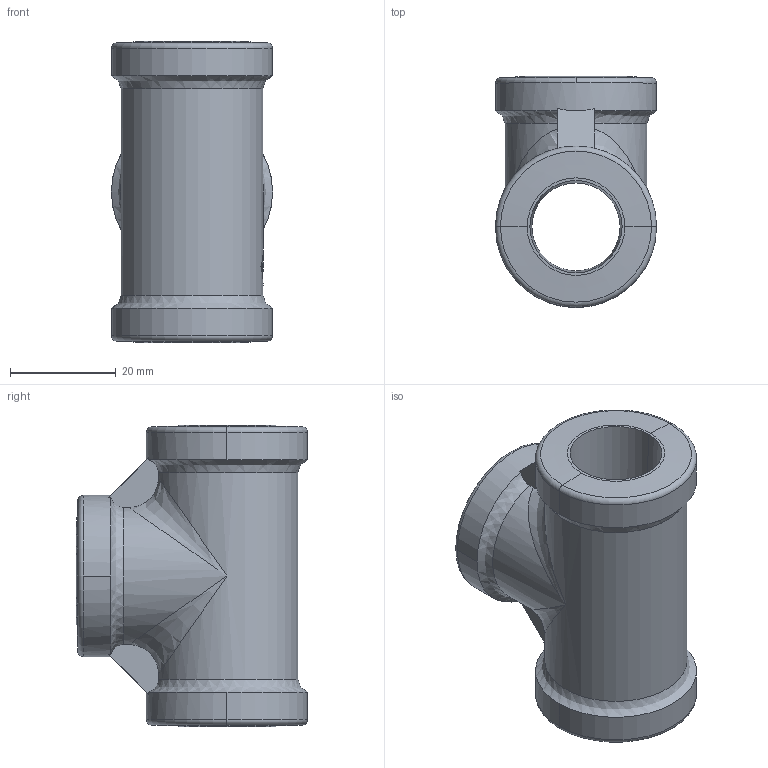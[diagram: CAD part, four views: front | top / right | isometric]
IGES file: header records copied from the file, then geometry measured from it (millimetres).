
Global section: file name: No Iges File Name specified; native system: AutoDesk Inventor R12.0; preprocessor: AutoDesk Inventor Iges Exporter R12.0; date: 20090916.113202; units: millimetre
Bounding box: 30.4 x 43.6 x 56.8 mm (x, y, z)
Volume: 24061.7 mm3; surface area: 11823.4 mm2
Topology: 1 solids, 1 shells, 80 faces, 210 edges, 126 vertices
Faces by surface type: bspline 28, plane 19, cylinder 12, revolution 9, cone 6, torus 6
